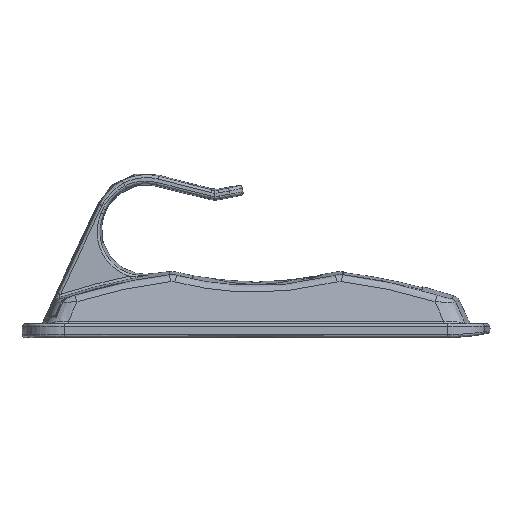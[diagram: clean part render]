
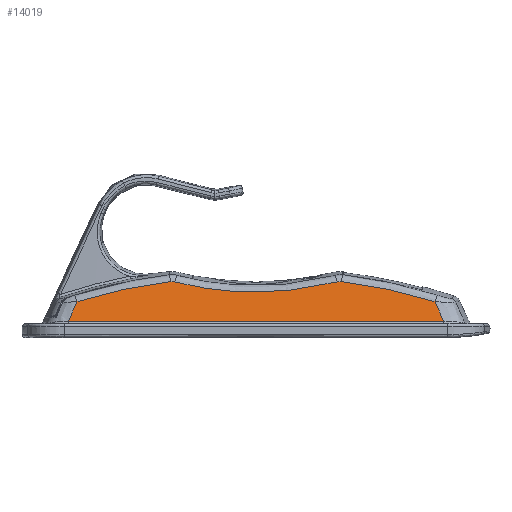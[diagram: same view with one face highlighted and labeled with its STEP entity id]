
A CAD part, top view. The second image highlights one B-rep face of the part: STEP entity #14019.
In plain terms, the highlighted planar face has unit normal (0, 0.174, 0.985).
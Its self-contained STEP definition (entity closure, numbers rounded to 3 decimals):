
#2682=CARTESIAN_POINT('',(-139.668,3.326,23.413));
#2748=DIRECTION('',(-1.,0.,0.));
#2749=VECTOR('',#2748,137.337);
#2750=CARTESIAN_POINT('',(-2.332,3.326,23.413));
#2751=LINE('',#2750,#2749);
#2752=CARTESIAN_POINT('',(-139.668,3.326,23.413));
#2753=CARTESIAN_POINT('',(-139.349,4.054,23.285));
#2754=CARTESIAN_POINT('',(-138.687,5.563,23.019));
#2755=CARTESIAN_POINT('',(-137.638,7.953,22.598));
#2756=CARTESIAN_POINT('',(-136.875,9.692,22.291));
#2757=CARTESIAN_POINT('',(-136.479,10.593,22.132));
#2759=CARTESIAN_POINT('',(-102.269,17.903,20.843));
#2760=CARTESIAN_POINT('',(-103.685,17.735,20.873));
#2761=CARTESIAN_POINT('',(-106.432,17.378,20.936));
#2762=CARTESIAN_POINT('',(-110.21,16.805,21.037));
#2763=CARTESIAN_POINT('',(-113.907,16.17,21.149));
#2764=CARTESIAN_POINT('',(-117.504,15.48,21.271));
#2765=CARTESIAN_POINT('',(-121.068,14.723,21.404));
#2766=CARTESIAN_POINT('',(-124.567,13.911,21.547));
#2767=CARTESIAN_POINT('',(-128.161,13.004,21.707));
#2768=CARTESIAN_POINT('',(-132.036,11.942,21.894));
#2769=CARTESIAN_POINT('',(-134.952,11.072,22.048));
#2770=CARTESIAN_POINT('',(-136.479,10.593,22.132));
#2772=CARTESIAN_POINT('',(-100.675,17.795,20.862));
#2773=CARTESIAN_POINT('',(-100.795,17.826,20.857));
#2774=CARTESIAN_POINT('',(-101.04,17.878,20.848));
#2775=CARTESIAN_POINT('',(-101.408,17.924,20.839));
#2776=CARTESIAN_POINT('',(-101.807,17.94,20.837));
#2777=CARTESIAN_POINT('',(-102.11,17.922,20.84));
#2778=CARTESIAN_POINT('',(-102.269,17.903,20.843));
#2780=CARTESIAN_POINT('',(-41.325,17.795,20.862));
#2781=CARTESIAN_POINT('',(-43.507,17.231,20.962));
#2782=CARTESIAN_POINT('',(-47.87,16.235,21.137));
#2783=CARTESIAN_POINT('',(-54.378,15.126,21.333));
#2784=CARTESIAN_POINT('',(-60.955,14.378,21.465));
#2785=CARTESIAN_POINT('',(-67.543,14.,21.531));
#2786=CARTESIAN_POINT('',(-74.151,13.992,21.533));
#2787=CARTESIAN_POINT('',(-80.735,14.351,21.47));
#2788=CARTESIAN_POINT('',(-87.39,15.09,21.339));
#2789=CARTESIAN_POINT('',(-94.067,16.22,21.14));
#2790=CARTESIAN_POINT('',(-98.476,17.227,20.962));
#2791=CARTESIAN_POINT('',(-100.675,17.795,20.862));
#2793=CARTESIAN_POINT('',(-39.731,17.903,20.843));
#2794=CARTESIAN_POINT('',(-39.855,17.918,20.841));
#2795=CARTESIAN_POINT('',(-40.104,17.936,20.837));
#2796=CARTESIAN_POINT('',(-40.475,17.932,20.838));
#2797=CARTESIAN_POINT('',(-40.872,17.894,20.845));
#2798=CARTESIAN_POINT('',(-41.17,17.835,20.855));
#2799=CARTESIAN_POINT('',(-41.325,17.795,20.862));
#2801=CARTESIAN_POINT('',(-5.521,10.593,22.132));
#2802=CARTESIAN_POINT('',(-6.762,10.982,22.064));
#2803=CARTESIAN_POINT('',(-9.207,11.719,21.934));
#2804=CARTESIAN_POINT('',(-12.671,12.69,21.762));
#2805=CARTESIAN_POINT('',(-16.18,13.602,21.602));
#2806=CARTESIAN_POINT('',(-19.678,14.44,21.454));
#2807=CARTESIAN_POINT('',(-23.237,15.221,21.316));
#2808=CARTESIAN_POINT('',(-26.832,15.937,21.19));
#2809=CARTESIAN_POINT('',(-30.661,16.622,21.069));
#2810=CARTESIAN_POINT('',(-34.865,17.282,20.953));
#2811=CARTESIAN_POINT('',(-38.052,17.704,20.878));
#2812=CARTESIAN_POINT('',(-39.731,17.903,20.843));
#2814=CARTESIAN_POINT('',(-2.332,3.326,23.413));
#2815=CARTESIAN_POINT('',(-2.576,3.882,23.315));
#2816=CARTESIAN_POINT('',(-3.074,5.019,23.115));
#2817=CARTESIAN_POINT('',(-3.852,6.791,22.803));
#2818=CARTESIAN_POINT('',(-4.665,8.644,22.476));
#2819=CARTESIAN_POINT('',(-5.232,9.934,22.248));
#2820=CARTESIAN_POINT('',(-5.521,10.593,22.132));
#3157=CARTESIAN_POINT('',(-2.332,3.326,23.413));
#3173=CARTESIAN_POINT('',(-5.521,10.593,22.132));
#8908=VERTEX_POINT('',#3173);
#8911=VERTEX_POINT('',#2812);
#8913=VERTEX_POINT('',#2799);
#8915=VERTEX_POINT('',#2791);
#8917=VERTEX_POINT('',#2778);
#8919=VERTEX_POINT('',#2770);
#8951=VERTEX_POINT('',#3157);
#8955=VERTEX_POINT('',#2682);
#13999=CARTESIAN_POINT('',(-20.,12.,21.884));
#14000=DIRECTION('',(0.,0.174,0.985));
#14001=DIRECTION('',(1.,0.,0.));
#14002=AXIS2_PLACEMENT_3D('',#13999,#14000,#14001);
#14003=PLANE('',#14002);
#14004=ORIENTED_EDGE('',*,*,#13989,.T.);
#14005=ORIENTED_EDGE('',*,*,#13900,.T.);
#14006=ORIENTED_EDGE('',*,*,#12346,.F.);
#14008=ORIENTED_EDGE('',*,*,#14007,.F.);
#14010=ORIENTED_EDGE('',*,*,#14009,.F.);
#14012=ORIENTED_EDGE('',*,*,#14011,.F.);
#14014=ORIENTED_EDGE('',*,*,#14013,.F.);
#14016=ORIENTED_EDGE('',*,*,#14015,.F.);
#14017=EDGE_LOOP('',(#14004,#14005,#14006,#14008,#14010,#14012,#14014,#14016));
#14018=FACE_OUTER_BOUND('',#14017,.F.);
#2758=B_SPLINE_CURVE_WITH_KNOTS('',3,(#2752,#2753,#2754,#2755,#2756,#2757),
.UNSPECIFIED.,.F.,.F.,(4,1,1,4),(0.,0.333,0.667,1.),
.UNSPECIFIED.);
#2771=B_SPLINE_CURVE_WITH_KNOTS('',3,(#2759,#2760,#2761,#2762,#2763,#2764,#2765,
#2766,#2767,#2768,#2769,#2770),.UNSPECIFIED.,.F.,.F.,(4,1,1,1,1,1,1,1,1,4),
(0.,0.111,0.222,0.333,0.444,
0.556,0.667,0.778,0.889,1.),
.UNSPECIFIED.);
#2779=B_SPLINE_CURVE_WITH_KNOTS('',3,(#2772,#2773,#2774,#2775,#2776,#2777,
#2778),.UNSPECIFIED.,.F.,.F.,(4,1,1,1,4),(0.,0.25,0.5,0.75,1.),
.UNSPECIFIED.);
#2792=B_SPLINE_CURVE_WITH_KNOTS('',3,(#2780,#2781,#2782,#2783,#2784,#2785,#2786,
#2787,#2788,#2789,#2790,#2791),.UNSPECIFIED.,.F.,.F.,(4,1,1,1,1,1,1,1,1,4),
(0.,0.111,0.222,0.333,0.444,
0.556,0.667,0.778,0.889,1.),
.UNSPECIFIED.);
#2800=B_SPLINE_CURVE_WITH_KNOTS('',3,(#2793,#2794,#2795,#2796,#2797,#2798,
#2799),.UNSPECIFIED.,.F.,.F.,(4,1,1,1,4),(0.,0.25,0.5,0.75,1.),
.UNSPECIFIED.);
#2813=B_SPLINE_CURVE_WITH_KNOTS('',3,(#2801,#2802,#2803,#2804,#2805,#2806,#2807,
#2808,#2809,#2810,#2811,#2812),.UNSPECIFIED.,.F.,.F.,(4,1,1,1,1,1,1,1,1,4),
(0.,0.111,0.222,0.333,0.444,
0.556,0.667,0.778,0.889,1.),
.UNSPECIFIED.);
#2821=B_SPLINE_CURVE_WITH_KNOTS('',3,(#2814,#2815,#2816,#2817,#2818,#2819,
#2820),.UNSPECIFIED.,.F.,.F.,(4,1,1,1,4),(0.,0.25,0.5,0.75,1.),
.UNSPECIFIED.);
#12346=EDGE_CURVE('',#8917,#8919,#2771,.T.);
#13900=EDGE_CURVE('',#8955,#8919,#2758,.T.);
#13989=EDGE_CURVE('',#8951,#8955,#2751,.T.);
#14007=EDGE_CURVE('',#8915,#8917,#2779,.T.);
#14009=EDGE_CURVE('',#8913,#8915,#2792,.T.);
#14011=EDGE_CURVE('',#8911,#8913,#2800,.T.);
#14013=EDGE_CURVE('',#8908,#8911,#2813,.T.);
#14015=EDGE_CURVE('',#8951,#8908,#2821,.T.);
#14019=ADVANCED_FACE('',(#14018),#14003,.T.);
